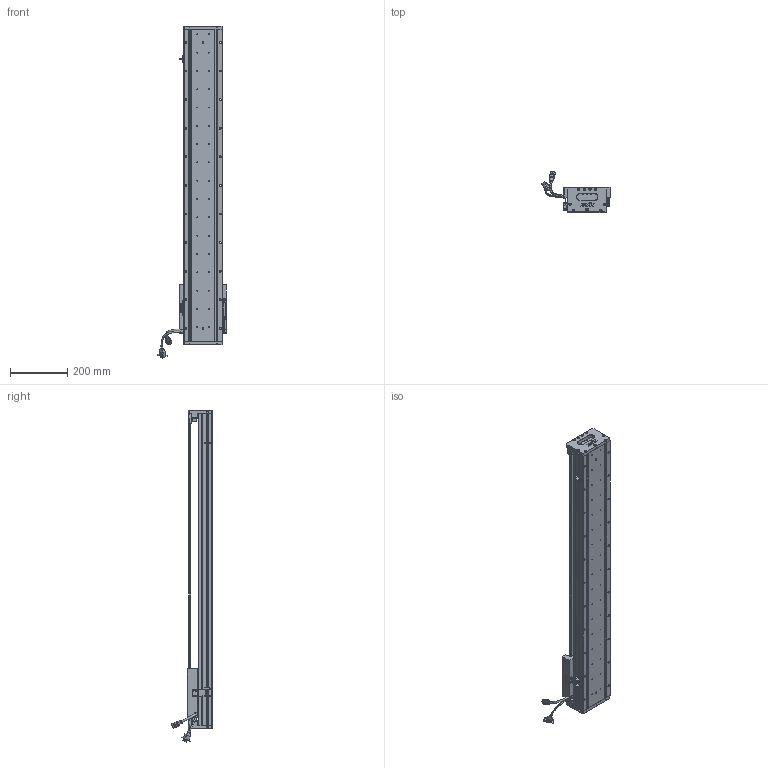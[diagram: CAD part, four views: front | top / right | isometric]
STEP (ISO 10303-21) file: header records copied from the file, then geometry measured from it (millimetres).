
FILE_DESCRIPTION (( 'STEP AP203' ), '1' );
FILE_NAME ('Z2-RY140D-1-L500-B-K.SLDASM_0850.step', '2021-05-17T07:45:30', ( '盈信电脑' ), ( '东莞市道滘镇水果街19号' ), 'SwSTEP 2.0', 'SolidWorks 2016', '' );
FILE_SCHEMA (( 'CONFIG_CONTROL_DESIGN' ));
Length unit declared in the file: millimetre
Products named in the file (36): SCALE-Part-2; Z-RY140詩湍奻揤裔; 140蚥薯蝶輸; 140雄赽晤鎢ん堤盄; LABEL; HARNESS-Part-1; Z2-RY140-L500詩湍100mm遵_0850; Z2-RY140D-1-L500-B-K.SLDASM_0850; 140-Z-臏賑輸盄裔(21遴); HARNESS-Part-2; COVER-Part-1; SCREW-M1.6-3; SCREW-M1.6-1; SCALE; HARNESS; SHIELDPLATE; SEAL-Part-1; SCREW-M1.6-2; SCREW-M1.7-1; SCREW-M1.6; PSLH080_PSLF2; SCALE-Part-1; 080黍杅芛假蚾釱21遴; LABEL-Part-1; Z2-RY140圉猾敕臏賑輸(21遴); 覜茼ん672; Z2-RY140-L500直线电机模组底座_0850; PBU_SHEET; 榋妏寠巭燃_暯_M2_2; HOLDER0; SCREW-M1.7; Z-RY140感应器672光电感应片; SEAL; Z-RY140詩湍狟揤裔; COVER; Z-140詩湍傷裔啣
Assembly tree (41 placements, depth 4):
  Z2-RY140D-1-L500-B-K.SLDASM_0850
    Z2-RY140-L500直线电机模组底座_0850
    Z-RY140感应器672光电感应片
    Z2-RY140圉猾敕臏賑輸(21遴)
    覜茼ん672  x3
    Z2-RY140-L500詩湍100mm遵_0850
    PSLH080_PSLF2
      SCALE
        SCALE-Part-1
        SCALE-Part-2
      HARNESS
        HARNESS-Part-1
        HARNESS-Part-2
      LABEL
        LABEL-Part-1
      COVER
        COVER-Part-1
      SEAL
        SEAL-Part-1
      榋妏寠巭燃_暯_M2_2
      SHIELDPLATE
      SCREW-M1.7
      SCREW-M1.7-1
      PBU_SHEET
      SCREW-M1.6
      SCREW-M1.6-1
      SCREW-M1.6-2
      SCREW-M1.6-3
      HOLDER0
    080黍杅芛假蚾釱21遴
    140-Z-臏賑輸盄裔(21遴)
    Z-140詩湍傷裔啣  x2
    Z-RY140詩湍狟揤裔  x2
    Z-RY140詩湍奻揤裔  x2
    140蚥薯蝶輸  x2
    140雄赽晤鎢ん堤盄
Bounding box: 239.84 x 143.77 x 1160.88 mm (x, y, z)
Volume: 4093054.4 mm3; surface area: 1075591 mm2
Topology: 36 solids, 36 shells, 3018 faces, 7982 edges, 5055 vertices
Faces by surface type: cylinder 1440, plane 1156, cone 290, torus 79, bspline 53
Entity records: 89242 total; most frequent: CARTESIAN_POINT 22915, ORIENTED_EDGE 13092, DIRECTION 12862, EDGE_CURVE 6546, AXIS2_PLACEMENT_3D 4738, VERTEX_POINT 4223, LINE 3386, VECTOR 3386
